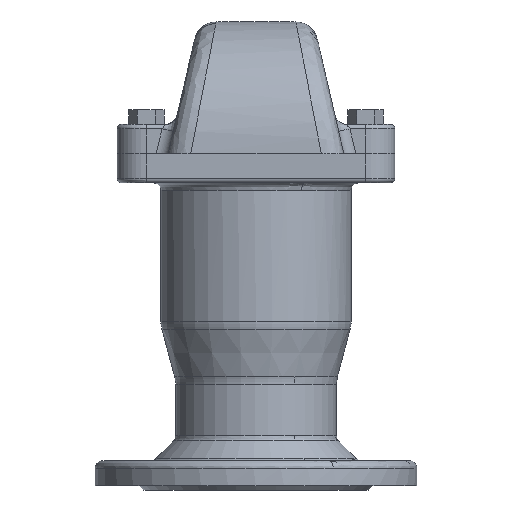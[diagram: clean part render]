
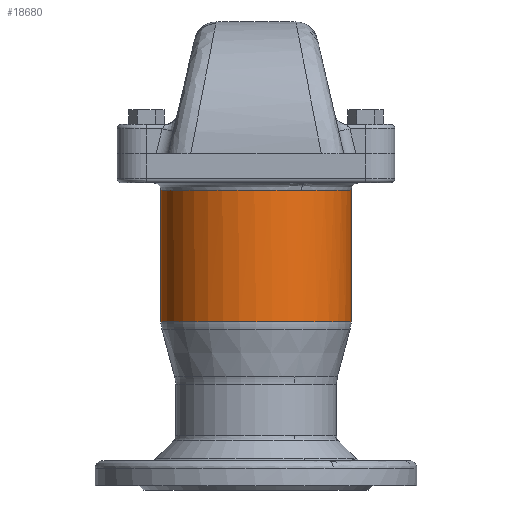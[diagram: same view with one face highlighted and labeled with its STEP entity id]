
A CAD part, front view. The second image highlights one B-rep face of the part: STEP entity #18680.
In plain terms, the highlighted cylindrical face has radius 65 mm (diameter 130 mm), a partial arc.
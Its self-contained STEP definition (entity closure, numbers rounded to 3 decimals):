
#570 = CARTESIAN_POINT ( 'NONE',  ( -65., 0., 205. ) ) ;
#1067 = VERTEX_POINT ( 'NONE', #24078 ) ;
#2253 = AXIS2_PLACEMENT_3D ( 'NONE', #4732, #22597, #7307 ) ;
#2543 = DIRECTION ( 'NONE',  ( 0., 0., 1. ) ) ;
#3261 = CARTESIAN_POINT ( 'NONE',  ( 65., 0., 205. ) ) ;
#3584 = VERTEX_POINT ( 'NONE', #570 ) ;
#4311 = AXIS2_PLACEMENT_3D ( 'NONE', #15738, #28432, #18278 ) ;
#4732 = CARTESIAN_POINT ( 'NONE',  ( 0., 0., 205. ) ) ;
#6890 = CIRCLE ( 'NONE', #13604, 65. ) ;
#7058 = AXIS2_PLACEMENT_3D ( 'NONE', #17830, #2543, #20410 ) ;
#7297 = ORIENTED_EDGE ( 'NONE', *, *, #29179, .F. ) ;
#7307 = DIRECTION ( 'NONE',  ( 1., 0., 0. ) ) ;
#7690 = CIRCLE ( 'NONE', #7058, 65. ) ;
#10009 = ORIENTED_EDGE ( 'NONE', *, *, #26218, .T. ) ;
#11202 = VERTEX_POINT ( 'NONE', #15767 ) ;
#13604 = AXIS2_PLACEMENT_3D ( 'NONE', #14870, #32660, #17423 ) ;
#14748 = CARTESIAN_POINT ( 'NONE',  ( 65., 0., 114.954 ) ) ;
#14780 = CYLINDRICAL_SURFACE ( 'NONE', #4311, 65. ) ;
#14870 = CARTESIAN_POINT ( 'NONE',  ( 0., 0., 114.954 ) ) ;
#15066 = EDGE_CURVE ( 'NONE', #3584, #11202, #7690, .T. ) ;
#15611 = EDGE_LOOP ( 'NONE', ( #7297, #10009, #26832, #31240, #16958 ) ) ;
#15738 = CARTESIAN_POINT ( 'NONE',  ( 0., 0., 114.954 ) ) ;
#15767 = CARTESIAN_POINT ( 'NONE',  ( 31.163, -57.043, 205. ) ) ;
#16344 = FACE_OUTER_BOUND ( 'NONE', #15611, .T. ) ;
#16958 = ORIENTED_EDGE ( 'NONE', *, *, #15066, .F. ) ;
#17423 = DIRECTION ( 'NONE',  ( 1., 0., 0. ) ) ;
#17830 = CARTESIAN_POINT ( 'NONE',  ( 0., 0., 205. ) ) ;
#18278 = DIRECTION ( 'NONE',  ( 1., 0., 0. ) ) ;
#18429 = LINE ( 'NONE', #14748, #31973 ) ;
#18680 = ADVANCED_FACE ( 'NONE', ( #16344 ), #14780, .T. ) ;
#20410 = DIRECTION ( 'NONE',  ( 1., 0., 0. ) ) ;
#21221 = CIRCLE ( 'NONE', #2253, 65. ) ;
#21362 = VERTEX_POINT ( 'NONE', #27532 ) ;
#22597 = DIRECTION ( 'NONE',  ( 0., 0., 1. ) ) ;
#23872 = EDGE_CURVE ( 'NONE', #21362, #32626, #18429, .T. ) ;
#24078 = CARTESIAN_POINT ( 'NONE',  ( -65., 0., 114.954 ) ) ;
#25530 = EDGE_CURVE ( 'NONE', #11202, #32626, #21221, .T. ) ;
#26218 = EDGE_CURVE ( 'NONE', #1067, #21362, #6890, .T. ) ;
#26832 = ORIENTED_EDGE ( 'NONE', *, *, #23872, .T. ) ;
#27481 = CARTESIAN_POINT ( 'NONE',  ( -65., 0., 114.954 ) ) ;
#27532 = CARTESIAN_POINT ( 'NONE',  ( 65., 0., 114.954 ) ) ;
#28432 = DIRECTION ( 'NONE',  ( 0., 0., 1. ) ) ;
#29179 = EDGE_CURVE ( 'NONE', #1067, #3584, #30732, .T. ) ;
#29949 = VECTOR ( 'NONE', #30032, 1000. ) ;
#30032 = DIRECTION ( 'NONE',  ( 0., 0., 1. ) ) ;
#30732 = LINE ( 'NONE', #27481, #29949 ) ;
#31240 = ORIENTED_EDGE ( 'NONE', *, *, #25530, .F. ) ;
#31973 = VECTOR ( 'NONE', #32549, 1000. ) ;
#32549 = DIRECTION ( 'NONE',  ( 0., 0., 1. ) ) ;
#32626 = VERTEX_POINT ( 'NONE', #3261 ) ;
#32660 = DIRECTION ( 'NONE',  ( 0., 0., 1. ) ) ;
